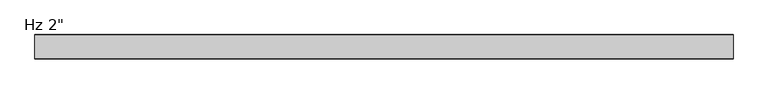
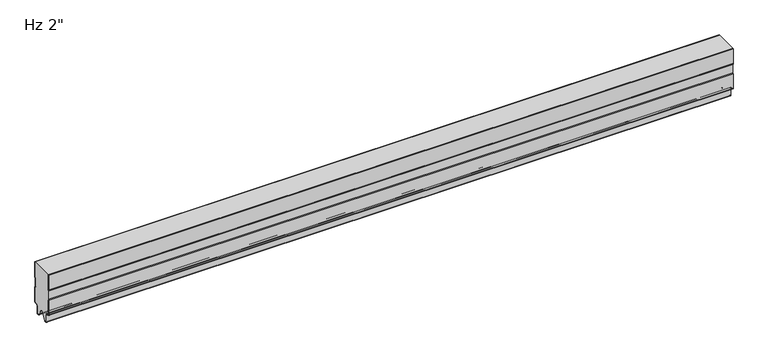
"""IFC4 building model written with IfcOpenShell, lengths in millimetres: plate geometry."""

import ifcopenshell
import ifcopenshell.guid

model = None  # the IFC model being written
_history = None  # IfcOwnerHistory: only IFC2X3 demands one
_inside = {}  # id of a spatial element -> (the spatial element, [elements in it])
_under = {}  # id of a project, library or spatial element -> (it, [spatial elements below it])
_declared = {}  # id of a project -> (the project, [libraries it declares])
_typed = {}  # id of a type object -> (the type object, [elements of that type])
_made_of = {}  # id of a material, layer set ... -> (it, [elements and type objects made of it])


def new_model(schema):
    """Start an empty IFC model of exactly this schema.

    Asked for "IFC4X3", IfcOpenShell would pick the latest addendum, in which some entities
    have other attributes; the version numbers below select the first issue.
    IFC2X3 requires an IfcOwnerHistory on every rooted entity: one is made here for all.
    """
    global model, _history
    if schema == "IFC4X3":
        model = ifcopenshell.file(schema_version=(4, 3, 0, 0))
    else:
        model = ifcopenshell.file(schema=schema)
    _inside.clear()
    _under.clear()
    _declared.clear()
    _typed.clear()
    _made_of.clear()
    _history = None
    if model.schema == "IFC2X3":
        org = make("IfcOrganization", Name="unknown")
        user = make(
            "IfcPersonAndOrganization",
            ThePerson=make("IfcPerson", FamilyName="unknown"),
            TheOrganization=org,
        )
        app = make(
            "IfcApplication",
            ApplicationDeveloper=org,
            Version="unknown",
            ApplicationFullName="unknown",
            ApplicationIdentifier="unknown",
        )
        _history = make(
            "IfcOwnerHistory",
            OwningUser=user,
            OwningApplication=app,
            ChangeAction="ADDED",
            CreationDate=0,
        )
    return model


def make(cls, **values):
    """One entity of the class cls with the attributes given. An attribute that is None is left unset."""
    return model.create_entity(
        cls, **{name: value for name, value in values.items() if value is not None}
    )


def rooted(cls, **values):
    """An entity with a GlobalId (a new one), such as an element, a storey or a relation."""
    return make(cls, GlobalId=ifcopenshell.guid.new(), OwnerHistory=_history, **values)


def si_unit(unit_type, name, prefix=None):
    """IfcSIUnit, for example si_unit("LENGTHUNIT", "METRE", prefix="MILLI")."""
    return make("IfcSIUnit", UnitType=unit_type, Prefix=prefix, Name=name)


def assignment(units):
    """IfcUnitAssignment: the units of a project."""
    return None if units is None else make("IfcUnitAssignment", Units=units)


def point(xyz):
    """IfcCartesianPoint."""
    return None if xyz is None else make("IfcCartesianPoint", Coordinates=xyz)


def direction(xyz):
    """IfcDirection."""
    return None if xyz is None else make("IfcDirection", DirectionRatios=xyz)


def frame(location, z_axis=None, x_axis=None):
    """IfcAxis2Placement3D, a coordinate frame: its origin and axes. An axis left out is left unset."""
    return make(
        "IfcAxis2Placement3D",
        Location=point(location),
        Axis=direction(z_axis),
        RefDirection=direction(x_axis),
    )


def origin():
    """The frame at (0, 0, 0) with its axes left unset."""
    return frame((0.0, 0.0, 0.0))


def place(relative_to, where):
    """IfcLocalPlacement: puts the frame where relative to a parent placement (None: the world)."""
    return make(
        "IfcLocalPlacement", PlacementRelTo=relative_to, RelativePlacement=where
    )


def context(
    kind, dimensions, precision=None, world=None, true_north=None, identifier=None
):
    """IfcGeometricRepresentationContext, for example the 3D "Model" context."""
    return make(
        "IfcGeometricRepresentationContext",
        ContextIdentifier=identifier,
        ContextType=kind,
        CoordinateSpaceDimension=dimensions,
        Precision=precision,
        WorldCoordinateSystem=world,
        TrueNorth=true_north,
    )


def project(units=None, contexts=None):
    """IfcProject with its units and contexts."""
    return rooted(
        "IfcProject",
        Name="project",
        RepresentationContexts=contexts,
        UnitsInContext=assignment(units),
    )


def spatial(cls, under=None, at=None, **own):
    """A site, building, storey or space (cls), placed at a placement, below another one or the project."""
    s = rooted(cls, ObjectPlacement=at, **own)
    if under is not None:
        _under.setdefault(under.id(), (under, []))[1].append(s)
    return s


def polyline(points):
    """IfcPolyline through the points."""
    return make("IfcPolyline", Points=[point(p) for p in points])


def circle_curve(where, radius):
    """IfcCircle in the frame where."""
    return make("IfcCircle", Position=where, Radius=radius)


def shape(context_of_items, identifier, shape_type, items):
    """IfcShapeRepresentation: the items that make up one representation, for example the "Body"."""
    return make(
        "IfcShapeRepresentation",
        ContextOfItems=context_of_items,
        RepresentationIdentifier=identifier,
        RepresentationType=shape_type,
        Items=items,
    )


def source(mapping_origin, context_of_items, identifier, shape_type, items):
    """IfcRepresentationMap: a shape defined once, which mapped items show again and again."""
    return make(
        "IfcRepresentationMap",
        MappingOrigin=mapping_origin,
        MappedRepresentation=shape(context_of_items, identifier, shape_type, items),
    )


def transform(
    local_origin,
    x_axis=None,
    y_axis=None,
    z_axis=None,
    scale=None,
    scale2=None,
    scale3=None,
    uniform=True,
):
    """IfcCartesianTransformationOperator3D, or its non-uniform kind. x_axis, y_axis, z_axis: its Axis1, 2, 3."""
    if uniform:
        return make(
            "IfcCartesianTransformationOperator3D",
            Axis1=direction(x_axis),
            Axis2=direction(y_axis),
            LocalOrigin=point(local_origin),
            Scale=scale,
            Axis3=direction(z_axis),
        )
    return make(
        "IfcCartesianTransformationOperator3DnonUniform",
        Axis1=direction(x_axis),
        Axis2=direction(y_axis),
        LocalOrigin=point(local_origin),
        Scale=scale,
        Axis3=direction(z_axis),
        Scale2=scale2,
        Scale3=scale3,
    )


def mapped(mapping_source, mapping_target):
    """IfcMappedItem: shows the shape of a source again, moved by a transform."""
    return make(
        "IfcMappedItem", MappingSource=mapping_source, MappingTarget=mapping_target
    )


def made_of(thing, what):
    """Note that an element or type object is made of a material, layer set ...; save() writes the relation."""
    if what is not None:
        _made_of.setdefault(what.id(), (what, []))[1].append(thing)
    return thing


def element(
    cls,
    number,
    at=None,
    inside=None,
    cuts=None,
    type_object=None,
    material=None,
    context=None,
    identifier="Body",
    shape_type=None,
    held_by="IfcProductDefinitionShape",
    body=None,
    shapes=None,
    **own,
):
    """One element of the class cls, such as IfcWall. Its Tag is "e" and its number.

    at: its placement. inside: the storey or other place that contains it. cuts: it is an
    opening in that element (IfcRelVoidsElement). A single representation is given by context,
    identifier, shape_type and body (its items); several are given by shapes. held_by: the class
    of the entity that holds the representations. save() writes the other relations.
    """
    e = rooted(cls, Tag="e%d" % number, ObjectPlacement=at, **own)
    if body is not None:
        shapes = [shape(context, identifier, shape_type, body)]
    if shapes is not None:
        e.Representation = make(held_by, Representations=shapes)
    if inside is not None:
        _inside.setdefault(inside.id(), (inside, []))[1].append(e)
    if cuts is not None:
        rooted(
            "IfcRelVoidsElement", RelatingBuildingElement=cuts, RelatedOpeningElement=e
        )
    if type_object is not None:
        _typed.setdefault(type_object.id(), (type_object, []))[1].append(e)
    return made_of(e, material)


def aggregate(whole, parts):
    """IfcRelAggregates: a whole, such as a stair, and the parts it consists of."""
    return rooted("IfcRelAggregates", RelatingObject=whole, RelatedObjects=parts)


def save(model, path):
    """Write the relations noted so far, then the file.

    IfcRelAggregates (storeys below a building ...), IfcRelContainedInSpatialStructure (elements
    in a storey), IfcRelDefinesByType, IfcRelAssociatesMaterial and IfcRelDeclares: one each for
    every whole, place, type object, material and project.
    """
    for whole, parts in _under.values():
        aggregate(whole, parts)
    for where, things in _inside.values():
        rooted(
            "IfcRelContainedInSpatialStructure",
            RelatedElements=things,
            RelatingStructure=where,
        )
    for kind, things in _typed.values():
        rooted("IfcRelDefinesByType", RelatedObjects=things, RelatingType=kind)
    for what, things in _made_of.values():
        rooted("IfcRelAssociatesMaterial", RelatedObjects=things, RelatingMaterial=what)
    for by, libraries in _declared.values():
        rooted("IfcRelDeclares", RelatingContext=by, RelatedDefinitions=libraries)
    model.write(path)


def plane_surface(at):
    """IfcPlane: the flat surface through the origin of the frame at, square to its z axis."""
    return make("IfcPlane", Position=at)


def cylinder_surface(at, radius):
    """IfcCylindricalSurface: all points at the distance radius from the z axis of the frame at."""
    return make("IfcCylindricalSurface", Position=at, Radius=radius)


def revolved_surface(curve, axis_point, axis_direction):
    """IfcSurfaceOfRevolution: the curve turned about the line through axis_point along axis_direction."""
    return make(
        "IfcSurfaceOfRevolution",
        SweptCurve=make("IfcArbitraryOpenProfileDef", ProfileType="CURVE", Curve=curve),
        AxisPosition=make("IfcAxis1Placement", Location=point(axis_point), Axis=direction(axis_direction)),
    )


def advanced_brep(points, edges, surfaces, faces):
    """IfcAdvancedBrep: a solid bounded by faces that lie on surfaces and meet in shared edges.

    An edge is (start, end): straight between two places in points (the first is 0);
    or (start, end, curve); or (start, end, curve, False) where it runs against its curve.
    A face is (place in surfaces, loops), or (place, loops, False) where it looks against
    its surface's normal. A loop lists edges by number (the first is 1), with a minus sign
    where the edge is run from its end to its start. The first loop is the outer one.
    """
    corners = [point(p) for p in points]
    vertices = [make("IfcVertexPoint", VertexGeometry=c) for c in corners]
    made = []
    for start, end, *more in edges:
        made.append(
            make(
                "IfcEdgeCurve",
                EdgeStart=vertices[start],
                EdgeEnd=vertices[end],
                EdgeGeometry=more[0] if more else make("IfcPolyline", Points=[corners[start], corners[end]]),
                SameSense=more[1] if len(more) > 1 else True,
            )
        )
    hull = []
    for where, loops, *sense in faces:
        bounds = []
        for j, loop in enumerate(loops):
            ring = [make("IfcOrientedEdge", EdgeElement=made[abs(k) - 1], Orientation=k > 0) for k in loop]
            bounds.append(
                make(
                    "IfcFaceOuterBound" if j == 0 else "IfcFaceBound",
                    Bound=make("IfcEdgeLoop", EdgeList=ring),
                    Orientation=True,
                )
            )
        hull.append(make("IfcAdvancedFace", Bounds=bounds, FaceSurface=surfaces[where], SameSense=sense[0] if sense else True))
    return make("IfcAdvancedBrep", Outer=make("IfcClosedShell", CfsFaces=hull))


def plate_065824d9(model_context):
    return source(origin(), model_context, "Body", "AdvancedBrep", [
        advanced_brep(
        [(-730.0, -47.8224577, 3.8505994), (-730.0, -49.8005126, 5.8286544), (-730.0, -49.8005126, 37.993811), (-730.0, -48.6088405, 39.0663358), (-730.0, -48.6088405, 58.8493305), (-730.0, -49.8, 59.9218553), (-730.0, -49.8, 94.95), (-730.0, -1.0000044, 94.95), (-730.0, -1.0000044, 59.9218553), (-730.0, -2.1911639, 58.8493305), (-730.0, -2.1911639, 39.0663358), (-730.0, -0.9994917, 37.993811), (-730.0, -0.9994917, 5.8272239), (-730.0, -2.9772849, 3.8499499), (-730.0, -5.2691749, 3.8499499), (-730.0, -9.246442, -0.1273173), (-730.0, -9.246442, -15.7237417), (-730.0, -9.8343189, -16.3116186), (-730.0, -12.9058679, -16.3116186), (-730.0, -13.4937446, -15.723742), (-730.0, -13.4937446, -13.3687064), (-730.0, -14.4937446, -13.3687064), (-730.0, -14.4937446, -15.6582851), (-730.0, -23.7509179, 0.0), (-730.0, -27.0490865, 0.0), (-730.0, -36.3062598, -15.6582851), (-730.0, -36.3062598, -13.3687064), (-730.0, -37.306275, -13.3687064), (-730.0, -37.306275, -15.723723), (-730.0, -37.8941288, -16.3115768), (-730.0, -40.9656046, -16.3115768), (-730.0, -41.5533997, -15.7237817), (-730.0, -41.5533997, -0.1269926), (-730.0, -45.5309917, 3.8505994), (730.0, -47.8224577, 3.8505994), (730.0, -45.5309917, 3.8505994), (730.0, -41.5533997, -0.1269926), (730.0, -41.5533997, -15.7237817), (730.0, -40.9656046, -16.3115768), (730.0, -37.8941288, -16.3115768), (730.0, -37.306275, -15.723723), (730.0, -37.306275, -13.3687064), (730.0, -36.3062598, -13.3687064), (730.0, -36.3062598, -15.6582851), (730.0, -27.0490865, 0.0), (730.0, -23.7509179, 0.0), (730.0, -14.4937446, -15.6582851), (730.0, -14.4937446, -13.3687064), (730.0, -13.4937446, -13.3687064), (730.0, -13.4937446, -15.723742), (730.0, -12.9058679, -16.3116186), (730.0, -9.8343189, -16.3116186), (730.0, -9.246442, -15.7237417), (730.0, -9.246442, -0.1273173), (730.0, -5.2691749, 3.8499499), (730.0, -2.9772849, 3.8499499), (730.0, -1.0000109, 5.8272239), (730.0, -0.9994917, 37.993811), (730.0, -2.1911639, 39.0663358), (730.0, -2.1911639, 58.8493305), (730.0, -1.0000044, 59.9218553), (730.0, -1.0000044, 94.95), (730.0, -49.8, 94.95), (730.0, -49.8, 59.9218553), (730.0, -48.6088405, 58.8493305), (730.0, -48.6088405, 39.0663358), (730.0, -49.8005126, 37.993811), (730.0, -49.8005126, 5.8286544)],
        [
            (0, 1, circle_curve(frame((-730.0, -47.8224577, 5.8286544), z_axis=(-1.0, 0.0, 0.0), x_axis=(0.0, 0.0, -1.0)), 1.978055)),
            (1, 2),
            (2, 3),
            (3, 4),
            (4, 5),
            (5, 6),
            (6, 7),
            (7, 8),
            (8, 9),
            (9, 10),
            (10, 11),
            (11, 12),
            (12, 13, circle_curve(frame((-730.0, -2.9772849, 5.8272239), z_axis=(-1.0, 0.0, 0.0), x_axis=(0.0, 0.0, -1.0)), 1.977274)),
            (13, 14),
            (14, 15, circle_curve(frame((-730.0, -5.2691749, -0.1273173), z_axis=(1.0, 0.0, 0.0), x_axis=(0.0, 0.0, -1.0)), 3.9772671)),
            (15, 16),
            (16, 17, circle_curve(frame((-730.0, -9.8343189, -15.7237417), z_axis=(-1.0, 0.0, 0.0), x_axis=(0.0, 0.0, -1.0)), 0.5878769)),
            (17, 18),
            (18, 19, circle_curve(frame((-730.0, -12.9058679, -15.723742), z_axis=(-1.0, 0.0, 0.0), x_axis=(0.0, 0.0, -1.0)), 0.5878766)),
            (19, 20),
            (20, 21),
            (21, 22),
            (22, 23),
            (23, 24),
            (24, 25),
            (25, 26),
            (26, 27),
            (27, 28),
            (28, 29, circle_curve(frame((-730.0, -37.8941288, -15.723723), z_axis=(-1.0, 0.0, 0.0), x_axis=(0.0, 0.0, -1.0)), 0.5878538)),
            (29, 30),
            (30, 31, circle_curve(frame((-730.0, -40.9656046, -15.7237817), z_axis=(-1.0, 0.0, 0.0), x_axis=(0.0, 0.0, -1.0)), 0.5877951)),
            (31, 32),
            (32, 33, circle_curve(frame((-730.0, -45.5309917, -0.1269926), z_axis=(1.0, 0.0, 0.0), x_axis=(0.0, 0.0, -1.0)), 3.977592)),
            (33, 0),
            (34, 35),
            (35, 36, circle_curve(frame((730.0, -45.5309917, -0.1269926), z_axis=(-1.0, 0.0, 0.0), x_axis=(0.0, 0.0, -1.0)), 3.977592)),
            (36, 37),
            (37, 38, circle_curve(frame((730.0, -40.9656046, -15.7237817), z_axis=(1.0, 0.0, 0.0), x_axis=(0.0, 0.0, -1.0)), 0.5877951)),
            (38, 39),
            (39, 40, circle_curve(frame((730.0, -37.8941288, -15.723723), z_axis=(1.0, 0.0, 0.0), x_axis=(0.0, 0.0, -1.0)), 0.5878538)),
            (40, 41),
            (41, 42),
            (42, 43),
            (43, 44),
            (44, 45),
            (45, 46),
            (46, 47),
            (47, 48),
            (48, 49),
            (49, 50, circle_curve(frame((730.0, -12.9058679, -15.723742), z_axis=(1.0, 0.0, 0.0), x_axis=(0.0, 0.0, -1.0)), 0.5878766)),
            (50, 51),
            (51, 52, circle_curve(frame((730.0, -9.8343189, -15.7237417), z_axis=(1.0, 0.0, 0.0), x_axis=(0.0, 0.0, -1.0)), 0.5878769)),
            (52, 53),
            (53, 54, circle_curve(frame((730.0, -5.2691749, -0.1273173), z_axis=(-1.0, 0.0, 0.0), x_axis=(0.0, 0.0, -1.0)), 3.9772671)),
            (54, 55),
            (55, 56, circle_curve(frame((730.0, -2.9772849, 5.8272239), z_axis=(1.0, 0.0, 0.0), x_axis=(0.0, 0.0, -1.0)), 1.977274)),
            (56, 57),
            (57, 58),
            (58, 59),
            (59, 60),
            (60, 61),
            (61, 62),
            (62, 63),
            (63, 64),
            (64, 65),
            (65, 66),
            (66, 67),
            (67, 34, circle_curve(frame((730.0, -47.8224577, 5.8286544), z_axis=(1.0, 0.0, 0.0), x_axis=(0.0, 0.0, -1.0)), 1.978055)),
            (6, 62),
            (61, 7),
            (33, 35),
            (34, 0),
            (32, 36),
            (31, 37),
            (30, 38),
            (29, 39),
            (28, 40),
            (27, 41),
            (26, 42),
            (25, 43),
            (24, 44),
            (23, 45),
            (22, 46),
            (21, 47),
            (20, 48),
            (19, 49),
            (18, 50),
            (17, 51),
            (16, 52),
            (15, 53),
            (14, 54),
            (13, 55),
            (12, 56),
            (11, 57),
            (10, 58),
            (9, 59),
            (8, 60),
            (5, 63),
            (4, 64),
            (3, 65),
            (2, 66),
            (1, 67),
        ],
        [
            plane_surface(frame((-730.0, -49.8, 576.2625), z_axis=(-1.0, 0.0, 0.0), x_axis=(0.0, -1.0, 0.0))),
            plane_surface(frame((730.0, -49.8, 576.2625), z_axis=(1.0, 0.0, 0.0), x_axis=(0.0, -1.0, 0.0))),
            plane_surface(frame((730.0, 10.0, 94.95), z_axis=(0.0, 0.0, 1.0), x_axis=(-1.0, 0.0, 0.0))),
            plane_surface(frame((-730.0, -47.8224577, 3.8505994), z_axis=(0.0, 0.0, -1.0), x_axis=(1.0, 0.0, 0.0))),
            revolved_surface(polyline([(730.0, -45.5309917, -4.1045846), (-730.0, -45.5309917, -4.1045846)]), (-730.0, -45.5309917, -0.1269926), (1.0, 0.0, 0.0)),
            plane_surface(frame((-730.0, -41.5533997, -0.1269926), z_axis=(0.0, -1.0, 0.0), x_axis=(1.0, 0.0, 0.0))),
            cylinder_surface(frame((-730.0, -40.9656046, -15.7237817), z_axis=(-1.0, 0.0, 0.0), x_axis=(0.0, 0.0, -1.0)), 0.5877951),
            plane_surface(frame((-730.0, -40.9656046, -16.3115768), z_axis=(0.0, 0.0, -1.0), x_axis=(1.0, 0.0, 0.0))),
            cylinder_surface(frame((-730.0, -37.8941288, -15.723723), z_axis=(-1.0, 0.0, 0.0), x_axis=(0.0, 0.0, -1.0)), 0.5878538),
            plane_surface(frame((-730.0, -37.306275, -15.723723), z_axis=(0.0, 1.0, 0.0), x_axis=(1.0, 0.0, 0.0))),
            plane_surface(frame((-730.0, -37.306275, -13.3687064), z_axis=(0.0, 0.0, -1.0), x_axis=(1.0, 0.0, 0.0))),
            plane_surface(frame((-730.0, -36.3062598, -13.3687064), z_axis=(0.0, -1.0, 0.0), x_axis=(1.0, 0.0, 0.0))),
            plane_surface(frame((-730.0, -36.3062598, -15.6582851), z_axis=(0.0, 0.8608169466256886, -0.5089147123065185), x_axis=(1.0, 0.0, 0.0))),
            plane_surface(frame((-730.0, -27.0490865, 0.0), z_axis=(0.0, 0.0, -1.0), x_axis=(1.0, 0.0, 0.0))),
            plane_surface(frame((-730.0, -23.7509179, 0.0), z_axis=(0.0, -0.8608169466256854, -0.508914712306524), x_axis=(1.0, 0.0, 0.0))),
            plane_surface(frame((-730.0, -14.4937446, -15.6582851), z_axis=(0.0, 1.0, 0.0), x_axis=(1.0, 0.0, 0.0))),
            plane_surface(frame((-730.0, -14.4937446, -13.3687064), z_axis=(0.0, 0.0, -1.0), x_axis=(1.0, 0.0, 0.0))),
            plane_surface(frame((-730.0, -13.4937446, -13.3687064), z_axis=(0.0, -1.0, 0.0), x_axis=(1.0, 0.0, 0.0))),
            cylinder_surface(frame((-730.0, -12.9058679, -15.723742), z_axis=(-1.0, 0.0, 0.0), x_axis=(0.0, 0.0, -1.0)), 0.5878766),
            plane_surface(frame((-730.0, -12.9058679, -16.3116186), z_axis=(0.0, 0.0, -1.0), x_axis=(1.0, 0.0, 0.0))),
            cylinder_surface(frame((-730.0, -9.8343189, -15.7237417), z_axis=(-1.0, 0.0, 0.0), x_axis=(0.0, 0.0, -1.0)), 0.5878769),
            plane_surface(frame((-730.0, -9.246442, -15.7237417), z_axis=(0.0, 1.0, 0.0), x_axis=(1.0, 0.0, 0.0))),
            revolved_surface(polyline([(730.0, -5.2691749, -4.1045844), (-730.0, -5.2691749, -4.1045844)]), (-730.0, -5.2691749, -0.1273173), (1.0, 0.0, 0.0)),
            plane_surface(frame((-730.0, -5.2691749, 3.8499499), z_axis=(0.0, 0.0, -1.0), x_axis=(1.0, 0.0, 0.0))),
            cylinder_surface(frame((-730.0, -2.9772849, 5.8272239), z_axis=(-1.0, 0.0, 0.0), x_axis=(0.0, 0.0, -1.0)), 1.977274),
            plane_surface(frame((-730.0, -0.9994917, 5.8272239), z_axis=(0.0, 1.0, 0.0), x_axis=(1.0, 0.0, 0.0))),
            plane_surface(frame((-730.0, -0.9994917, 37.993811), z_axis=(0.0, 0.6689715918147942, 0.743287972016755), x_axis=(1.0, 0.0, 0.0))),
            plane_surface(frame((-730.0, -2.1911639, 39.0663358), z_axis=(0.0, 1.0, 0.0), x_axis=(1.0, 0.0, 0.0))),
            plane_surface(frame((-730.0, -2.1911639, 58.8493305), z_axis=(0.0, 0.6691306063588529, -0.7431448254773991), x_axis=(1.0, 0.0, 0.0))),
            plane_surface(frame((-730.0, -1.0000044, 59.9218553), z_axis=(0.0, 1.0, 0.0), x_axis=(1.0, 0.0, 0.0))),
            plane_surface(frame((-730.0, -49.8, 113.6164312), z_axis=(0.0, -1.0, 0.0), x_axis=(1.0, 0.0, 0.0))),
            plane_surface(frame((-730.0, -49.8, 59.9218553), z_axis=(0.0, -0.6691306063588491, -0.7431448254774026), x_axis=(1.0, 0.0, 0.0))),
            plane_surface(frame((-730.0, -48.6088405, 58.8493305), z_axis=(0.0, -1.0, 0.0), x_axis=(1.0, 0.0, 0.0))),
            plane_surface(frame((-730.0, -48.6088405, 39.0663358), z_axis=(0.0, -0.668971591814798, 0.7432879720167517), x_axis=(1.0, 0.0, 0.0))),
            plane_surface(frame((-730.0, -49.8005126, 37.993811), z_axis=(0.0, -1.0, 0.0), x_axis=(1.0, 0.0, 0.0))),
            cylinder_surface(frame((-730.0, -47.8224577, 5.8286544), z_axis=(-1.0, 0.0, 0.0), x_axis=(0.0, 0.0, -1.0)), 1.978055),
        ],
        [
            (0, [[1, 2, 3, 4, 5, 6, 7, 8, 9, 10, 11, 12, 13, 14, 15, 16, 17, 18, 19, 20, 21, 22, 23, 24, 25, 26, 27, 28, 29, 30, 31, 32, 33, 34]]),
            (1, [[35, 36, 37, 38, 39, 40, 41, 42, 43, 44, 45, 46, 47, 48, 49, 50, 51, 52, 53, 54, 55, 56, 57, 58, 59, 60, 61, 62, 63, 64, 65, 66, 67, 68]]),
            (2, [[69, -62, 70, -7]]),
            (3, [[71, -35, 72, -34]]),
            (4, [[73, -36, -71, -33]]),
            (5, [[74, -37, -73, -32]]),
            (6, [[75, -38, -74, -31]]),
            (7, [[76, -39, -75, -30]]),
            (8, [[77, -40, -76, -29]]),
            (9, [[78, -41, -77, -28]]),
            (10, [[79, -42, -78, -27]]),
            (11, [[80, -43, -79, -26]]),
            (12, [[81, -44, -80, -25]]),
            (13, [[82, -45, -81, -24]]),
            (14, [[83, -46, -82, -23]]),
            (15, [[84, -47, -83, -22]]),
            (16, [[85, -48, -84, -21]]),
            (17, [[86, -49, -85, -20]]),
            (18, [[87, -50, -86, -19]]),
            (19, [[88, -51, -87, -18]]),
            (20, [[89, -52, -88, -17]]),
            (21, [[90, -53, -89, -16]]),
            (22, [[91, -54, -90, -15]]),
            (23, [[92, -55, -91, -14]]),
            (24, [[93, -56, -92, -13]]),
            (25, [[94, -57, -93, -12]]),
            (26, [[95, -58, -94, -11]]),
            (27, [[96, -59, -95, -10]]),
            (28, [[97, -60, -96, -9]]),
            (29, [[-8, -70, -61, -97]]),
            (30, [[-63, -69, -6, 98]]),
            (31, [[99, -64, -98, -5]]),
            (32, [[100, -65, -99, -4]]),
            (33, [[101, -66, -100, -3]]),
            (34, [[102, -67, -101, -2]]),
            (35, [[-72, -68, -102, -1]]),
        ],
    ),
        advanced_brep(
        [(-730.0, -1.0, 59.9218553), (-730.0, -1.0, 94.95), (-730.0, 0.0, 94.95), (-730.0, 0.0, 59.479416), (-730.0, -1.1911595, 58.4068912), (-730.0, -1.1911595, 39.5087751), (-730.0, 0.0, 38.4362503), (-730.0, 0.0, 5.8272193), (-730.0, -2.9772904, 2.8499526), (-730.0, -5.2691742, 2.8499526), (-730.0, -8.2464427, -0.1273159), (-730.0, -8.2464427, -15.7237419), (-730.0, -9.8343193, -17.3116185), (-730.0, -12.905868, -17.3116185), (-730.0, -14.4937445, -15.7237419), (-730.0, -14.4937445, -13.3687064), (-730.0, -13.4937445, -13.3687064), (-730.0, -13.4937445, -15.7237419), (-730.0, -12.905868, -16.3116185), (-730.0, -9.8343193, -16.3116185), (-730.0, -9.2464427, -15.7237419), (-730.0, -9.2464427, -0.1273159), (-730.0, -5.2691742, 3.8499526), (-730.0, -2.9772904, 3.8499526), (-730.0, -1.0000218, 5.82722), (-730.0, -1.0, 37.993811), (-730.0, -2.1911595, 39.0663358), (-730.0, -2.1911595, 58.8493305), (730.0, 0.0, 59.479416), (730.0, 0.0, 94.95), (730.0, -1.0, 94.95), (730.0, -1.0, 59.9218553), (730.0, -2.1911595, 58.8493305), (730.0, -2.1911595, 39.0663358), (730.0, -1.0, 37.993811), (730.0, -1.0, 5.82722), (730.0, -2.9772904, 3.8499526), (730.0, -5.2691742, 3.8499526), (730.0, -9.2464427, -0.1273159), (730.0, -9.2464427, -15.7237419), (730.0, -9.8343193, -16.3116185), (730.0, -12.905868, -16.3116185), (730.0, -13.4937445, -15.7237419), (730.0, -13.4937445, -13.3687064), (730.0, -14.4937445, -13.3687064), (730.0, -14.4937445, -15.7237419), (730.0, -12.905868, -17.3116185), (730.0, -9.8343193, -17.3116185), (730.0, -8.2464427, -15.7237419), (730.0, -8.2464427, -0.1273159), (730.0, -5.2691742, 2.8499526), (730.0, -2.9772904, 2.8499526), (730.0, -2.18e-05, 5.8272193), (730.0, 0.0, 38.4362503), (730.0, -1.1911595, 39.5087751), (730.0, -1.1911595, 58.4068912)],
        [
            (0, 1),
            (1, 2),
            (2, 3),
            (3, 4),
            (4, 5),
            (5, 6),
            (6, 7),
            (7, 8, circle_curve(frame((-730.0, -2.9772904, 5.8272211), z_axis=(-1.0, 0.0, 0.0), x_axis=(0.0, 1.0, 0.0)), 2.9772685)),
            (8, 9),
            (9, 10, circle_curve(frame((-730.0, -5.2691742, -0.1273159), z_axis=(1.0, 0.0, 0.0), x_axis=(0.0, 1.0, 0.0)), 2.9772685)),
            (10, 11),
            (11, 12, circle_curve(frame((-730.0, -9.8343193, -15.7237419), z_axis=(-1.0, 0.0, 0.0), x_axis=(0.0, 1.0, 0.0)), 1.5878765)),
            (12, 13),
            (13, 14, circle_curve(frame((-730.0, -12.905868, -15.7237419), z_axis=(-1.0, 0.0, 0.0), x_axis=(0.0, 1.0, 0.0)), 1.5878765)),
            (14, 15),
            (15, 16),
            (16, 17),
            (17, 18, circle_curve(frame((-730.0, -12.905868, -15.7237419), z_axis=(1.0, 0.0, 0.0), x_axis=(0.0, 1.0, 0.0)), 0.5878765)),
            (18, 19),
            (19, 20, circle_curve(frame((-730.0, -9.8343193, -15.7237419), z_axis=(1.0, 0.0, 0.0), x_axis=(0.0, 1.0, 0.0)), 0.5878765)),
            (20, 21),
            (21, 22, circle_curve(frame((-730.0, -5.2691742, -0.1273159), z_axis=(-1.0, 0.0, 0.0), x_axis=(0.0, 1.0, 0.0)), 3.9772685)),
            (22, 23),
            (23, 24, circle_curve(frame((-730.0, -2.9772904, 5.8272212), z_axis=(1.0, 0.0, 0.0), x_axis=(0.0, 1.0, 0.0)), 1.9772685)),
            (24, 25),
            (25, 26),
            (26, 27),
            (27, 0),
            (28, 29),
            (29, 30),
            (30, 31),
            (31, 32),
            (32, 33),
            (33, 34),
            (34, 35),
            (35, 36, circle_curve(frame((730.0, -2.9772904, 5.8272212), z_axis=(-1.0, 0.0, 0.0), x_axis=(0.0, 1.0, 0.0)), 1.9772685)),
            (36, 37),
            (37, 38, circle_curve(frame((730.0, -5.2691742, -0.1273159), z_axis=(1.0, 0.0, 0.0), x_axis=(0.0, 1.0, 0.0)), 3.9772685)),
            (38, 39),
            (39, 40, circle_curve(frame((730.0, -9.8343193, -15.7237419), z_axis=(-1.0, 0.0, 0.0), x_axis=(0.0, 1.0, 0.0)), 0.5878765)),
            (40, 41),
            (41, 42, circle_curve(frame((730.0, -12.905868, -15.7237419), z_axis=(-1.0, 0.0, 0.0), x_axis=(0.0, 1.0, 0.0)), 0.5878765)),
            (42, 43),
            (43, 44),
            (44, 45),
            (45, 46, circle_curve(frame((730.0, -12.905868, -15.7237419), z_axis=(1.0, 0.0, 0.0), x_axis=(0.0, 1.0, 0.0)), 1.5878765)),
            (46, 47),
            (47, 48, circle_curve(frame((730.0, -9.8343193, -15.7237419), z_axis=(1.0, 0.0, 0.0), x_axis=(0.0, 1.0, 0.0)), 1.5878765)),
            (48, 49),
            (49, 50, circle_curve(frame((730.0, -5.2691742, -0.1273159), z_axis=(-1.0, 0.0, 0.0), x_axis=(0.0, 1.0, 0.0)), 2.9772685)),
            (50, 51),
            (51, 52, circle_curve(frame((730.0, -2.9772904, 5.8272211), z_axis=(1.0, 0.0, 0.0), x_axis=(0.0, 1.0, 0.0)), 2.9772685)),
            (52, 53),
            (53, 54),
            (54, 55),
            (55, 28),
            (30, 1),
            (0, 31),
            (27, 32),
            (26, 33),
            (25, 34),
            (24, 35),
            (23, 36),
            (22, 37),
            (21, 38),
            (20, 39),
            (19, 40),
            (18, 41),
            (17, 42),
            (16, 43),
            (15, 44),
            (14, 45),
            (13, 46),
            (12, 47),
            (11, 48),
            (10, 49),
            (9, 50),
            (8, 51),
            (7, 52),
            (6, 53),
            (5, 54),
            (4, 55),
            (3, 28),
            (2, 29),
        ],
        [
            plane_surface(frame((-730.0, 0.0, 576.2625), z_axis=(-1.0, 0.0, 0.0), x_axis=(0.0, 1.0, 0.0))),
            plane_surface(frame((730.0, 0.0, 576.2625), z_axis=(1.0, 0.0, 0.0), x_axis=(0.0, 1.0, 0.0))),
            plane_surface(frame((-730.0, -1.0, 113.6164312), z_axis=(0.0, -1.0, 0.0), x_axis=(1.0, 0.0, 0.0))),
            plane_surface(frame((-730.0, -1.0, 59.9218553), z_axis=(0.0, -0.6691306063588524, 0.7431448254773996), x_axis=(1.0, 0.0, 0.0))),
            plane_surface(frame((-730.0, -2.1911595, 58.8493305), z_axis=(0.0, -1.0, 0.0), x_axis=(1.0, 0.0, 0.0))),
            plane_surface(frame((-730.0, -2.1911595, 39.0663358), z_axis=(0.0, -0.6691306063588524, -0.7431448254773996), x_axis=(1.0, 0.0, 0.0))),
            plane_surface(frame((-730.0, -1.0, 37.993811), z_axis=(0.0, -1.0, 0.0), x_axis=(1.0, 0.0, 0.0))),
            revolved_surface(polyline([(730.0, -1.0000218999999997, 5.8272212), (-730.0, -1.0000218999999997, 5.8272212)]), (-730.0, -2.9772904, 5.8272212), (1.0, 0.0, 0.0)),
            plane_surface(frame((-730.0, -2.9772904, 3.8499526), z_axis=(0.0, 0.0, 1.0), x_axis=(1.0, 0.0, 0.0))),
            cylinder_surface(frame((-730.0, -5.2691742, -0.1273159), z_axis=(-1.0, 0.0, 0.0), x_axis=(0.0, 1.0, 0.0)), 3.9772685),
            plane_surface(frame((-730.0, -9.2464427, -0.1273159), z_axis=(0.0, -1.0, 0.0), x_axis=(1.0, 0.0, 0.0))),
            revolved_surface(polyline([(730.0, -9.2464428, -15.7237419), (-730.0, -9.2464428, -15.7237419)]), (-730.0, -9.8343193, -15.7237419), (1.0, 0.0, 0.0)),
            plane_surface(frame((-730.0, -9.8343193, -16.3116185), z_axis=(0.0, 0.0, 1.0), x_axis=(1.0, 0.0, 0.0))),
            revolved_surface(polyline([(730.0, -12.3179915, -15.7237419), (-730.0, -12.3179915, -15.7237419)]), (-730.0, -12.905868, -15.7237419), (1.0, 0.0, 0.0)),
            plane_surface(frame((-730.0, -13.4937445, -15.7237419), z_axis=(0.0, 1.0, 0.0), x_axis=(1.0, 0.0, 0.0))),
            plane_surface(frame((-730.0, -13.4937445, -13.3687064), z_axis=(0.0, 0.0, 1.0), x_axis=(1.0, 0.0, 0.0))),
            plane_surface(frame((-730.0, -14.4937445, -13.3687064), z_axis=(0.0, -1.0, 0.0), x_axis=(1.0, 0.0, 0.0))),
            cylinder_surface(frame((-730.0, -12.905868, -15.7237419), z_axis=(-1.0, 0.0, 0.0), x_axis=(0.0, 1.0, 0.0)), 1.5878765),
            plane_surface(frame((-730.0, -12.905868, -17.3116185), z_axis=(0.0, 0.0, -1.0), x_axis=(1.0, 0.0, 0.0))),
            cylinder_surface(frame((-730.0, -9.8343193, -15.7237419), z_axis=(-1.0, 0.0, 0.0), x_axis=(0.0, 1.0, 0.0)), 1.5878765),
            plane_surface(frame((-730.0, -8.2464427, -15.7237419), z_axis=(0.0, 1.0, 0.0), x_axis=(1.0, 0.0, 0.0))),
            revolved_surface(polyline([(730.0, -2.2919057, -0.1273159), (-730.0, -2.2919057, -0.1273159)]), (-730.0, -5.2691742, -0.1273159), (1.0, 0.0, 0.0)),
            plane_surface(frame((-730.0, -5.2691742, 2.8499526), z_axis=(0.0, 0.0, -1.0), x_axis=(1.0, 0.0, 0.0))),
            cylinder_surface(frame((-730.0, -2.9772904, 5.8272211), z_axis=(-1.0, 0.0, 0.0), x_axis=(0.0, 1.0, 0.0)), 2.9772685),
            plane_surface(frame((-730.0, 0.0, 5.8272193), z_axis=(0.0, 1.0, 0.0), x_axis=(1.0, 0.0, 0.0))),
            plane_surface(frame((-730.0, 0.0, 38.4362503), z_axis=(0.0, 0.6691306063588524, 0.7431448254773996), x_axis=(1.0, 0.0, 0.0))),
            plane_surface(frame((-730.0, -1.1911595, 39.5087751), z_axis=(0.0, 1.0, 0.0), x_axis=(1.0, 0.0, 0.0))),
            plane_surface(frame((-730.0, -1.1911595, 58.4068912), z_axis=(0.0, 0.6691306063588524, -0.7431448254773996), x_axis=(1.0, 0.0, 0.0))),
            plane_surface(frame((-730.0, 0.0, 59.479416), z_axis=(0.0, 1.0, 0.0), x_axis=(1.0, 0.0, 0.0))),
            plane_surface(frame((730.0, 10.0, 94.95), z_axis=(0.0, 0.0, 1.0), x_axis=(-1.0, 0.0, 0.0))),
        ],
        [
            (0, [[1, 2, 3, 4, 5, 6, 7, 8, 9, 10, 11, 12, 13, 14, 15, 16, 17, 18, 19, 20, 21, 22, 23, 24, 25, 26, 27, 28]]),
            (1, [[29, 30, 31, 32, 33, 34, 35, 36, 37, 38, 39, 40, 41, 42, 43, 44, 45, 46, 47, 48, 49, 50, 51, 52, 53, 54, 55, 56]]),
            (2, [[-31, 57, -1, 58]]),
            (3, [[59, -32, -58, -28]]),
            (4, [[60, -33, -59, -27]]),
            (5, [[61, -34, -60, -26]]),
            (6, [[62, -35, -61, -25]]),
            (7, [[63, -36, -62, -24]]),
            (8, [[64, -37, -63, -23]]),
            (9, [[65, -38, -64, -22]]),
            (10, [[66, -39, -65, -21]]),
            (11, [[67, -40, -66, -20]]),
            (12, [[68, -41, -67, -19]]),
            (13, [[69, -42, -68, -18]]),
            (14, [[70, -43, -69, -17]]),
            (15, [[71, -44, -70, -16]]),
            (16, [[72, -45, -71, -15]]),
            (17, [[73, -46, -72, -14]]),
            (18, [[74, -47, -73, -13]]),
            (19, [[75, -48, -74, -12]]),
            (20, [[76, -49, -75, -11]]),
            (21, [[77, -50, -76, -10]]),
            (22, [[78, -51, -77, -9]]),
            (23, [[79, -52, -78, -8]]),
            (24, [[80, -53, -79, -7]]),
            (25, [[81, -54, -80, -6]]),
            (26, [[82, -55, -81, -5]]),
            (27, [[83, -56, -82, -4]]),
            (28, [[-3, 84, -29, -83]]),
            (29, [[-57, -30, -84, -2]]),
        ],
    ),
        advanced_brep(
        [(-730.0, -50.8, 59.479416), (-730.0, -50.8, 94.95), (-730.0, -49.8, 94.95), (-730.0, -49.8, 59.9218553), (-730.0, -48.6088405, 58.8493305), (-730.0, -48.6088405, 39.0663358), (-730.0, -49.8, 37.993811), (-730.0, -49.8, 5.82722), (-730.0, -47.8227096, 3.8499526), (-730.0, -45.5308258, 3.8499526), (-730.0, -41.5535573, -0.1273159), (-730.0, -41.5535573, -15.7237419), (-730.0, -40.9656807, -16.3116185), (-730.0, -37.894132, -16.3116185), (-730.0, -37.3062555, -15.7237419), (-730.0, -37.3062555, -13.3687064), (-730.0, -36.3062555, -13.3687064), (-730.0, -36.3062555, -15.7237419), (-730.0, -37.894132, -17.3116185), (-730.0, -40.9656807, -17.3116185), (-730.0, -42.5535573, -15.7237419), (-730.0, -42.5535573, -0.1273159), (-730.0, -45.5308258, 2.8499526), (-730.0, -47.8227096, 2.8499526), (-730.0, -50.7999782, 5.8272193), (-730.0, -50.8, 38.4362503), (-730.0, -49.6088405, 39.5087751), (-730.0, -49.6088405, 58.4068912), (730.0, -49.8, 59.9218553), (730.0, -49.8, 94.95), (730.0, -50.8, 94.95), (730.0, -50.8, 59.479416), (730.0, -49.6088405, 58.4068912), (730.0, -49.6088405, 39.5087751), (730.0, -50.8, 38.4362503), (730.0, -50.8, 5.8272193), (730.0, -47.8227096, 2.8499526), (730.0, -45.5308258, 2.8499526), (730.0, -42.5535573, -0.1273159), (730.0, -42.5535573, -15.7237419), (730.0, -40.9656807, -17.3116185), (730.0, -37.894132, -17.3116185), (730.0, -36.3062555, -15.7237419), (730.0, -36.3062555, -13.3687064), (730.0, -37.3062555, -13.3687064), (730.0, -37.3062555, -15.7237419), (730.0, -37.894132, -16.3116185), (730.0, -40.9656807, -16.3116185), (730.0, -41.5535573, -15.7237419), (730.0, -41.5535573, -0.1273159), (730.0, -45.5308258, 3.8499526), (730.0, -47.8227096, 3.8499526), (730.0, -49.7999782, 5.82722), (730.0, -49.8, 37.993811), (730.0, -48.6088405, 39.0663358), (730.0, -48.6088405, 58.8493305)],
        [
            (0, 1),
            (1, 2),
            (2, 3),
            (3, 4),
            (4, 5),
            (5, 6),
            (6, 7),
            (7, 8, circle_curve(frame((-730.0, -47.8227096, 5.8272212), z_axis=(1.0, 0.0, 0.0), x_axis=(0.0, 0.0, -1.0)), 1.9772685)),
            (8, 9),
            (9, 10, circle_curve(frame((-730.0, -45.5308258, -0.1273159), z_axis=(-1.0, 0.0, 0.0), x_axis=(0.0, 0.0, -1.0)), 3.9772685)),
            (10, 11),
            (11, 12, circle_curve(frame((-730.0, -40.9656807, -15.7237419), z_axis=(1.0, 0.0, 0.0), x_axis=(0.0, 0.0, -1.0)), 0.5878765)),
            (12, 13),
            (13, 14, circle_curve(frame((-730.0, -37.894132, -15.7237419), z_axis=(1.0, 0.0, 0.0), x_axis=(0.0, 0.0, -1.0)), 0.5878765)),
            (14, 15),
            (15, 16),
            (16, 17),
            (17, 18, circle_curve(frame((-730.0, -37.894132, -15.7237419), z_axis=(-1.0, 0.0, 0.0), x_axis=(0.0, 0.0, -1.0)), 1.5878765)),
            (18, 19),
            (19, 20, circle_curve(frame((-730.0, -40.9656807, -15.7237419), z_axis=(-1.0, 0.0, 0.0), x_axis=(0.0, 0.0, -1.0)), 1.5878765)),
            (20, 21),
            (21, 22, circle_curve(frame((-730.0, -45.5308258, -0.1273159), z_axis=(1.0, 0.0, 0.0), x_axis=(0.0, 0.0, -1.0)), 2.9772685)),
            (22, 23),
            (23, 24, circle_curve(frame((-730.0, -47.8227096, 5.8272211), z_axis=(-1.0, 0.0, 0.0), x_axis=(0.0, 0.0, -1.0)), 2.9772685)),
            (24, 25),
            (25, 26),
            (26, 27),
            (27, 0),
            (28, 29),
            (29, 30),
            (30, 31),
            (31, 32),
            (32, 33),
            (33, 34),
            (34, 35),
            (35, 36, circle_curve(frame((730.0, -47.8227096, 5.8272211), z_axis=(1.0, 0.0, 0.0), x_axis=(0.0, 0.0, -1.0)), 2.9772685)),
            (36, 37),
            (37, 38, circle_curve(frame((730.0, -45.5308258, -0.1273159), z_axis=(-1.0, 0.0, 0.0), x_axis=(0.0, 0.0, -1.0)), 2.9772685)),
            (38, 39),
            (39, 40, circle_curve(frame((730.0, -40.9656807, -15.7237419), z_axis=(1.0, 0.0, 0.0), x_axis=(0.0, 0.0, -1.0)), 1.5878765)),
            (40, 41),
            (41, 42, circle_curve(frame((730.0, -37.894132, -15.7237419), z_axis=(1.0, 0.0, 0.0), x_axis=(0.0, 0.0, -1.0)), 1.5878765)),
            (42, 43),
            (43, 44),
            (44, 45),
            (45, 46, circle_curve(frame((730.0, -37.894132, -15.7237419), z_axis=(-1.0, 0.0, 0.0), x_axis=(0.0, 0.0, -1.0)), 0.5878765)),
            (46, 47),
            (47, 48, circle_curve(frame((730.0, -40.9656807, -15.7237419), z_axis=(-1.0, 0.0, 0.0), x_axis=(0.0, 0.0, -1.0)), 0.5878765)),
            (48, 49),
            (49, 50, circle_curve(frame((730.0, -45.5308258, -0.1273159), z_axis=(1.0, 0.0, 0.0), x_axis=(0.0, 0.0, -1.0)), 3.9772685)),
            (50, 51),
            (51, 52, circle_curve(frame((730.0, -47.8227096, 5.8272212), z_axis=(-1.0, 0.0, 0.0), x_axis=(0.0, 0.0, -1.0)), 1.9772685)),
            (52, 53),
            (53, 54),
            (54, 55),
            (55, 28),
            (1, 30),
            (29, 2),
            (0, 31),
            (27, 32),
            (26, 33),
            (25, 34),
            (24, 35),
            (23, 36),
            (22, 37),
            (21, 38),
            (20, 39),
            (19, 40),
            (18, 41),
            (17, 42),
            (16, 43),
            (15, 44),
            (14, 45),
            (13, 46),
            (12, 47),
            (11, 48),
            (10, 49),
            (9, 50),
            (8, 51),
            (7, 52),
            (6, 53),
            (5, 54),
            (4, 55),
            (3, 28),
        ],
        [
            plane_surface(frame((-730.0, -50.8, 576.2625), z_axis=(-1.0, 0.0, 0.0), x_axis=(0.0, -1.0, 0.0))),
            plane_surface(frame((730.0, -50.8, 576.2625), z_axis=(1.0, 0.0, 0.0), x_axis=(0.0, -1.0, 0.0))),
            plane_surface(frame((730.0, 10.0, 94.95), z_axis=(0.0, 0.0, 1.0), x_axis=(-1.0, 0.0, 0.0))),
            plane_surface(frame((-730.0, -50.8, 114.0588705), z_axis=(0.0, -1.0, 0.0), x_axis=(1.0, 0.0, 0.0))),
            plane_surface(frame((-730.0, -50.8, 59.479416), z_axis=(0.0, -0.6691306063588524, -0.7431448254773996), x_axis=(1.0, 0.0, 0.0))),
            plane_surface(frame((-730.0, -49.6088405, 58.4068912), z_axis=(0.0, -1.0, 0.0), x_axis=(1.0, 0.0, 0.0))),
            plane_surface(frame((-730.0, -49.6088405, 39.5087751), z_axis=(0.0, -0.6691306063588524, 0.7431448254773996), x_axis=(1.0, 0.0, 0.0))),
            plane_surface(frame((-730.0, -50.8, 38.4362503), z_axis=(0.0, -1.0, 0.0), x_axis=(1.0, 0.0, 0.0))),
            cylinder_surface(frame((-730.0, -47.8227096, 5.8272211), z_axis=(-1.0, 0.0, 0.0), x_axis=(0.0, 0.0, -1.0)), 2.9772685),
            plane_surface(frame((-730.0, -47.8227096, 2.8499526), z_axis=(0.0, 0.0, -1.0), x_axis=(1.0, 0.0, 0.0))),
            revolved_surface(polyline([(730.0, -45.5308258, -3.1045844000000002), (-730.0, -45.5308258, -3.1045844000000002)]), (-730.0, -45.5308258, -0.1273159), (1.0, 0.0, 0.0)),
            plane_surface(frame((-730.0, -42.5535573, -0.1273159), z_axis=(0.0, -1.0, 0.0), x_axis=(1.0, 0.0, 0.0))),
            cylinder_surface(frame((-730.0, -40.9656807, -15.7237419), z_axis=(-1.0, 0.0, 0.0), x_axis=(0.0, 0.0, -1.0)), 1.5878765),
            plane_surface(frame((-730.0, -40.9656807, -17.3116185), z_axis=(0.0, 0.0, -1.0), x_axis=(1.0, 0.0, 0.0))),
            cylinder_surface(frame((-730.0, -37.894132, -15.7237419), z_axis=(-1.0, 0.0, 0.0), x_axis=(0.0, 0.0, -1.0)), 1.5878765),
            plane_surface(frame((-730.0, -36.3062555, -15.7237419), z_axis=(0.0, 1.0, 0.0), x_axis=(1.0, 0.0, 0.0))),
            plane_surface(frame((-730.0, -36.3062555, -13.3687064), z_axis=(0.0, 0.0, 1.0), x_axis=(1.0, 0.0, 0.0))),
            plane_surface(frame((-730.0, -37.3062555, -13.3687064), z_axis=(0.0, -1.0, 0.0), x_axis=(1.0, 0.0, 0.0))),
            revolved_surface(polyline([(730.0, -37.894132, -16.3116184), (-730.0, -37.894132, -16.3116184)]), (-730.0, -37.894132, -15.7237419), (1.0, 0.0, 0.0)),
            plane_surface(frame((-730.0, -37.894132, -16.3116185), z_axis=(0.0, 0.0, 1.0), x_axis=(1.0, 0.0, 0.0))),
            revolved_surface(polyline([(730.0, -40.9656807, -16.3116184), (-730.0, -40.9656807, -16.3116184)]), (-730.0, -40.9656807, -15.7237419), (1.0, 0.0, 0.0)),
            plane_surface(frame((-730.0, -41.5535573, -15.7237419), z_axis=(0.0, 1.0, 0.0), x_axis=(1.0, 0.0, 0.0))),
            cylinder_surface(frame((-730.0, -45.5308258, -0.1273159), z_axis=(-1.0, 0.0, 0.0), x_axis=(0.0, 0.0, -1.0)), 3.9772685),
            plane_surface(frame((-730.0, -45.5308258, 3.8499526), z_axis=(0.0, 0.0, 1.0), x_axis=(1.0, 0.0, 0.0))),
            revolved_surface(polyline([(730.0, -47.8227096, 3.8499527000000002), (-730.0, -47.8227096, 3.8499527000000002)]), (-730.0, -47.8227096, 5.8272212), (1.0, 0.0, 0.0)),
            plane_surface(frame((-730.0, -49.8, 5.82722), z_axis=(0.0, 1.0, 0.0), x_axis=(1.0, 0.0, 0.0))),
            plane_surface(frame((-730.0, -49.8, 37.993811), z_axis=(0.0, 0.6691306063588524, -0.7431448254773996), x_axis=(1.0, 0.0, 0.0))),
            plane_surface(frame((-730.0, -48.6088405, 39.0663358), z_axis=(0.0, 1.0, 0.0), x_axis=(1.0, 0.0, 0.0))),
            plane_surface(frame((-730.0, -48.6088405, 58.8493305), z_axis=(0.0, 0.6691306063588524, 0.7431448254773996), x_axis=(1.0, 0.0, 0.0))),
            plane_surface(frame((-730.0, -49.8, 59.9218553), z_axis=(0.0, 1.0, 0.0), x_axis=(1.0, 0.0, 0.0))),
        ],
        [
            (0, [[1, 2, 3, 4, 5, 6, 7, 8, 9, 10, 11, 12, 13, 14, 15, 16, 17, 18, 19, 20, 21, 22, 23, 24, 25, 26, 27, 28]]),
            (1, [[29, 30, 31, 32, 33, 34, 35, 36, 37, 38, 39, 40, 41, 42, 43, 44, 45, 46, 47, 48, 49, 50, 51, 52, 53, 54, 55, 56]]),
            (2, [[57, -30, 58, -2]]),
            (3, [[-31, -57, -1, 59]]),
            (4, [[60, -32, -59, -28]]),
            (5, [[61, -33, -60, -27]]),
            (6, [[62, -34, -61, -26]]),
            (7, [[63, -35, -62, -25]]),
            (8, [[64, -36, -63, -24]]),
            (9, [[65, -37, -64, -23]]),
            (10, [[66, -38, -65, -22]]),
            (11, [[67, -39, -66, -21]]),
            (12, [[68, -40, -67, -20]]),
            (13, [[69, -41, -68, -19]]),
            (14, [[70, -42, -69, -18]]),
            (15, [[71, -43, -70, -17]]),
            (16, [[72, -44, -71, -16]]),
            (17, [[73, -45, -72, -15]]),
            (18, [[74, -46, -73, -14]]),
            (19, [[75, -47, -74, -13]]),
            (20, [[76, -48, -75, -12]]),
            (21, [[77, -49, -76, -11]]),
            (22, [[78, -50, -77, -10]]),
            (23, [[79, -51, -78, -9]]),
            (24, [[80, -52, -79, -8]]),
            (25, [[81, -53, -80, -7]]),
            (26, [[82, -54, -81, -6]]),
            (27, [[83, -55, -82, -5]]),
            (28, [[84, -56, -83, -4]]),
            (29, [[-3, -58, -29, -84]]),
        ],
    ),
    ])


if __name__ == "__main__":
    model = new_model("IFC4")
    model_context = context("Model", 3, world=origin())
    ifc_project = project(units=[si_unit("LENGTHUNIT", "METRE", prefix="MILLI")], contexts=[model_context])
    site = spatial("IfcSite", under=ifc_project)
    building = spatial("IfcBuilding", under=site)
    placement = place(None, origin())
    plate_shape = plate_065824d9(model_context)
    element("IfcPlate", 1, ObjectType="KIP-SLI-FLI-R19-CP-Hz-SL_SL : Hz 2\"", at=placement, inside=building, context=model_context, shape_type="MappedRepresentation", body=[
        mapped(plate_shape, transform((0.0, 0.0, 0.0), x_axis=(1.0, 0.0, 0.0), y_axis=(0.0, 1.0, 0.0), z_axis=(0.0, 0.0, 1.0))),
    ])
    save(model, "model.ifc")
